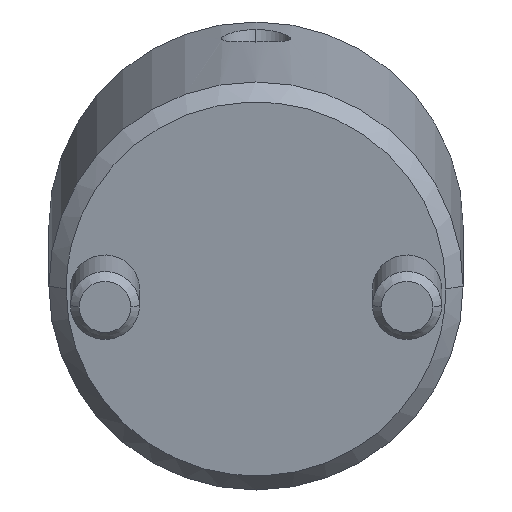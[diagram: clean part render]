
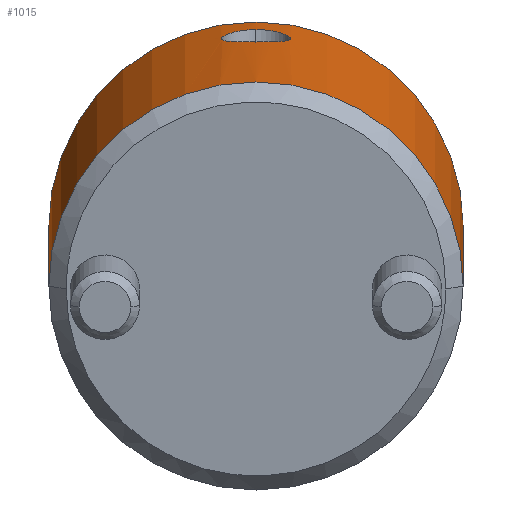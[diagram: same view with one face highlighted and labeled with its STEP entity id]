
A CAD part, front view. The second image highlights one B-rep face of the part: STEP entity #1015.
In plain terms, the highlighted cylindrical face has radius 12 mm (diameter 24 mm), a partial arc.
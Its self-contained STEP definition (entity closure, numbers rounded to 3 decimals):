
#778=CARTESIAN_POINT('Vertex',(0.,12.,1.)) ;
#781=CARTESIAN_POINT('Axis2P3D Location',(0.,0.,1.)) ;
#785=CARTESIAN_POINT('Vertex',(0.,-12.,1.)) ;
#925=CARTESIAN_POINT('Axis2P3D Location',(0.,0.,-1.1)) ;
#930=CARTESIAN_POINT('Line Origine',(0.,12.,-1.1)) ;
#934=CARTESIAN_POINT('Vertex',(0.,12.,21.)) ;
#937=CARTESIAN_POINT('Axis2P3D Location',(0.,0.,21.)) ;
#941=CARTESIAN_POINT('Vertex',(0.,-12.,21.)) ;
#944=CARTESIAN_POINT('Line Origine',(0.,-12.,-1.1)) ;
#956=CARTESIAN_POINT('Control Point',(12.,0.,18.464)) ;
#957=CARTESIAN_POINT('Control Point',(12.,0.274,18.464)) ;
#958=CARTESIAN_POINT('Control Point',(11.992,0.543,18.416)) ;
#959=CARTESIAN_POINT('Control Point',(11.977,0.805,18.319)) ;
#960=CARTESIAN_POINT('Control Point',(11.946,1.165,18.108)) ;
#961=CARTESIAN_POINT('Control Point',(11.912,1.459,17.817)) ;
#962=CARTESIAN_POINT('Control Point',(11.9,1.55,17.71)) ;
#963=CARTESIAN_POINT('Control Point',(11.866,1.797,17.365)) ;
#964=CARTESIAN_POINT('Control Point',(11.841,1.952,16.967)) ;
#965=CARTESIAN_POINT('Control Point',(11.83,2.01,16.685)) ;
#966=CARTESIAN_POINT('Control Point',(11.828,2.026,16.191)) ;
#967=CARTESIAN_POINT('Control Point',(11.849,1.898,15.716)) ;
#968=CARTESIAN_POINT('Control Point',(11.862,1.818,15.525)) ;
#969=CARTESIAN_POINT('Control Point',(11.888,1.644,15.224)) ;
#970=CARTESIAN_POINT('Control Point',(11.917,1.411,14.969)) ;
#971=CARTESIAN_POINT('Control Point',(11.929,1.309,14.876)) ;
#972=CARTESIAN_POINT('Control Point',(11.959,1.018,14.652)) ;
#973=CARTESIAN_POINT('Control Point',(11.984,0.68,14.499)) ;
#974=CARTESIAN_POINT('Control Point',(11.994,0.458,14.434)) ;
#975=CARTESIAN_POINT('Control Point',(12.,0.231,14.402)) ;
#976=CARTESIAN_POINT('Control Point',(12.,0.,14.402)) ;
#977=CARTESIAN_POINT('Vertex',(12.,0.,18.464)) ;
#979=CARTESIAN_POINT('Vertex',(12.,0.,14.402)) ;
#983=CARTESIAN_POINT('Control Point',(12.,0.,14.402)) ;
#984=CARTESIAN_POINT('Control Point',(12.,-0.139,14.402)) ;
#985=CARTESIAN_POINT('Control Point',(11.998,-0.277,14.414)) ;
#986=CARTESIAN_POINT('Control Point',(11.994,-0.414,14.438)) ;
#987=CARTESIAN_POINT('Control Point',(11.982,-0.682,14.508)) ;
#988=CARTESIAN_POINT('Control Point',(11.964,-0.935,14.623)) ;
#989=CARTESIAN_POINT('Control Point',(11.954,-1.057,14.692)) ;
#990=CARTESIAN_POINT('Control Point',(11.932,-1.285,14.849)) ;
#991=CARTESIAN_POINT('Control Point',(11.909,-1.482,15.042)) ;
#992=CARTESIAN_POINT('Control Point',(11.897,-1.571,15.147)) ;
#993=CARTESIAN_POINT('Control Point',(11.864,-1.813,15.485)) ;
#994=CARTESIAN_POINT('Control Point',(11.839,-1.961,15.876)) ;
#995=CARTESIAN_POINT('Control Point',(11.83,-2.014,16.155)) ;
#996=CARTESIAN_POINT('Control Point',(11.829,-2.021,16.578)) ;
#997=CARTESIAN_POINT('Control Point',(11.845,-1.923,16.989)) ;
#998=CARTESIAN_POINT('Control Point',(11.852,-1.88,17.123)) ;
#999=CARTESIAN_POINT('Control Point',(11.869,-1.769,17.383)) ;
#1000=CARTESIAN_POINT('Control Point',(11.891,-1.617,17.622)) ;
#1001=CARTESIAN_POINT('Control Point',(11.903,-1.53,17.735)) ;
#1002=CARTESIAN_POINT('Control Point',(11.932,-1.296,17.993)) ;
#1003=CARTESIAN_POINT('Control Point',(11.959,-1.012,18.196)) ;
#1004=CARTESIAN_POINT('Control Point',(11.974,-0.831,18.294)) ;
#1005=CARTESIAN_POINT('Control Point',(11.99,-0.553,18.399)) ;
#1006=CARTESIAN_POINT('Control Point',(11.998,-0.264,18.449)) ;
#1007=CARTESIAN_POINT('Control Point',(11.999,-0.176,18.459)) ;
#1008=CARTESIAN_POINT('Control Point',(12.,-0.088,18.464)) ;
#1009=CARTESIAN_POINT('Control Point',(12.,0.,18.464)) ;
#782=DIRECTION('Axis2P3D Direction',(0.,0.,1.)) ;
#926=DIRECTION('Axis2P3D Direction',(0.,-0.,1.)) ;
#927=DIRECTION('Axis2P3D XDirection',(0.,-1.,0.)) ;
#931=DIRECTION('Vector Direction',(0.,0.,1.)) ;
#938=DIRECTION('Axis2P3D Direction',(0.,-0.,1.)) ;
#945=DIRECTION('Vector Direction',(0.,0.,1.)) ;
#783=AXIS2_PLACEMENT_3D('Circle Axis2P3D',#781,#782,$) ;
#928=AXIS2_PLACEMENT_3D('Cylinder Axis2P3D',#925,#926,#927) ;
#939=AXIS2_PLACEMENT_3D('Circle Axis2P3D',#937,#938,$) ;
#950=ORIENTED_EDGE('',*,*,#936,.F.) ;
#951=ORIENTED_EDGE('',*,*,#943,.T.) ;
#952=ORIENTED_EDGE('',*,*,#948,.T.) ;
#953=ORIENTED_EDGE('',*,*,#787,.F.) ;
#1012=ORIENTED_EDGE('',*,*,#981,.T.) ;
#1013=ORIENTED_EDGE('',*,*,#1010,.T.) ;
#1014=FACE_BOUND('',#1011,.T.) ;
#932=VECTOR('Line Direction',#931,1.) ;
#946=VECTOR('Line Direction',#945,1.) ;
#1015=ADVANCED_FACE('MANIFOLD_SOLID_BREP #1096',(#954,#1014),#929,.T.) ;
#955=B_SPLINE_CURVE_WITH_KNOTS('',5,(#956,#957,#958,#959,#960,#961,#962,#963,#964,#965,#966,#967,#968,#969,#970,#971,#972,#973,#974,#975,#976),.UNSPECIFIED.,.F.,.U.,(6,3,3,3,3,3,6),(0.,1.934,2.932,4.914,6.38,7.357,8.982),.UNSPECIFIED.) ;
#982=B_SPLINE_CURVE_WITH_KNOTS('',5,(#983,#984,#985,#986,#987,#988,#989,#990,#991,#992,#993,#994,#995,#996,#997,#998,#999,#1000,#1001,#1002,#1003,#1004,#1005,#1006,#1007,#1008,#1009),.UNSPECIFIED.,.F.,.U.,(6,3,3,3,3,3,3,3,6),(0.,0.981,1.96,2.938,4.898,5.895,6.892,8.359,8.982),.UNSPECIFIED.) ;
#784=CIRCLE('generated circle',#783,12.) ;
#940=CIRCLE('generated circle',#939,12.) ;
#929=CYLINDRICAL_SURFACE('generated cylinder',#928,12.) ;
#787=EDGE_CURVE('',#779,#786,#784,.F.) ;
#936=EDGE_CURVE('',#935,#779,#933,.F.) ;
#943=EDGE_CURVE('',#935,#942,#940,.F.) ;
#948=EDGE_CURVE('',#942,#786,#947,.F.) ;
#981=EDGE_CURVE('',#978,#980,#955,.T.) ;
#1010=EDGE_CURVE('',#980,#978,#982,.T.) ;
#949=EDGE_LOOP('',(#950,#951,#952,#953)) ;
#1011=EDGE_LOOP('',(#1012,#1013)) ;
#954=FACE_OUTER_BOUND('',#949,.T.) ;
#933=LINE('Line',#930,#932) ;
#947=LINE('Line',#944,#946) ;
#779=VERTEX_POINT('',#778) ;
#786=VERTEX_POINT('',#785) ;
#935=VERTEX_POINT('',#934) ;
#942=VERTEX_POINT('',#941) ;
#978=VERTEX_POINT('',#977) ;
#980=VERTEX_POINT('',#979) ;
